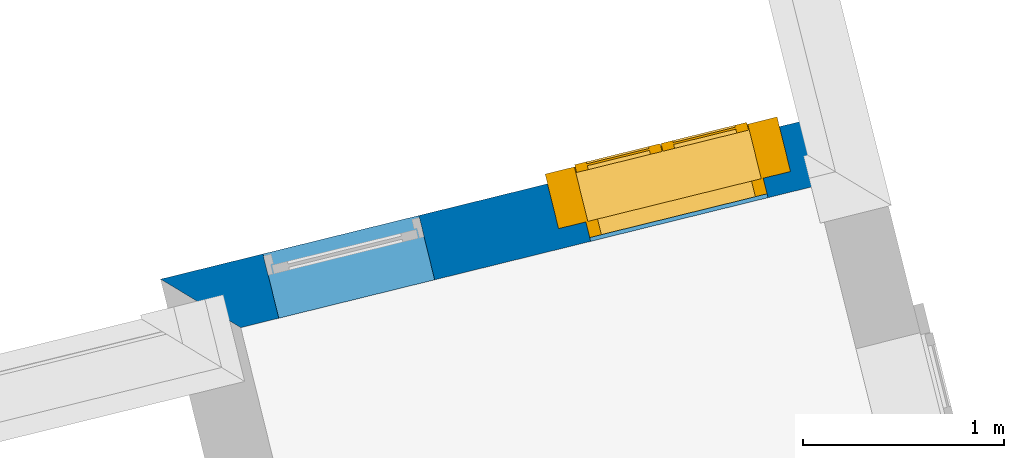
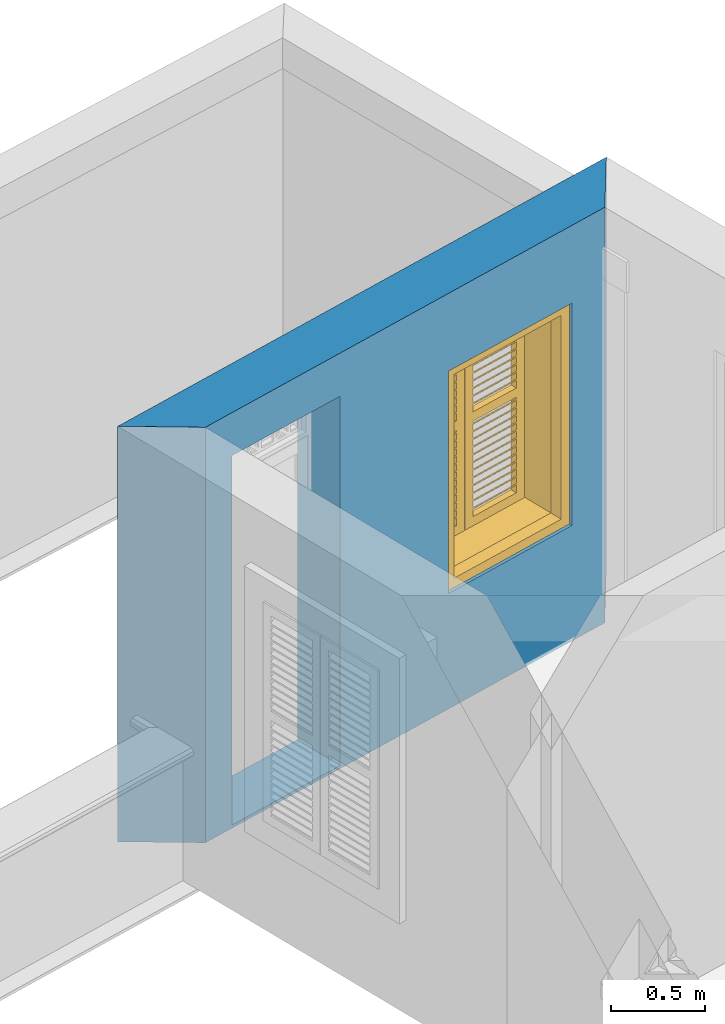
# One storey, part 7 of 8: 1 wall, 1 window, 2 openings.
"""IFC4 building model written with IfcOpenShell, lengths in metres."""

from ifc_helpers import new_model, si_unit, frame, origin, origin_with_axes, place, context, subcontext, project, spatial, polyline, outline, extrude, faceted_brep, source, transform, mapped, material, layer, layer_set, layer_usage, type_object, type_shapes, element, fill, save


model = new_model("IFC4")

# Units and contexts
model_context = context("Model", 3, world=origin_with_axes())
body_context = subcontext(model_context, "Body", "Model", "MODEL_VIEW")
ifc_project = project(units=[si_unit("PLANEANGLEUNIT", "RADIAN"), si_unit("MASSUNIT", "GRAM", prefix="KILO"), si_unit("FORCEUNIT", "NEWTON", prefix="KILO"), si_unit("LENGTHUNIT", "METRE"), si_unit("AREAUNIT", "SQUARE_METRE"), si_unit("VOLUMEUNIT", "CUBIC_METRE")], contexts=[model_context, model_context])

# Site, building, storey
site_placement = place(None, origin_with_axes())
site = spatial("IfcSite", under=ifc_project, at=site_placement, Name="Site plot-1", CompositionType="ELEMENT")
building_placement = place(None, origin_with_axes())
building = spatial("IfcBuilding", under=site, at=building_placement, Name="Building plot-1", CompositionType="ELEMENT")
storey_placement = place(None, frame((0.0, 0.0, 2.7), z_axis=(0.0, 0.0, 1.0), x_axis=(1.0, 0.0, 0.0)))
storey = spatial("IfcBuildingStorey", under=building, at=storey_placement, Name="plot-1 1", CompositionType="ELEMENT", Elevation=2.7)

# Wall, openings, window
ifc_material = material(Name="Masonry")
ifc_layer = layer(ifc_material, 0.33, ventilated=False)
ifc_layer_set = layer_set([ifc_layer], Name="exterior_0.08_0.25")
ifc_layer_usage = layer_usage(ifc_layer_set, "AXIS2", "POSITIVE", -0.25)
wall_type = type_object("IfcWallType", Name="exterior_0.08_0.25", PredefinedType="SOLIDWALL", material=ifc_layer_set)
wall_placement = place(storey_placement, frame((4.85901537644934, 24.6384675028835, 0.0), z_axis=(0.0, 0.0, 1.0), x_axis=(-0.970961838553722, -0.239234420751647, 0.0)))
wall = element("IfcWall", 1, at=wall_placement, inside=storey, type_object=wall_type, material=ifc_layer_usage, Name="exterior", context=body_context, shape_type="SweptSolid", body=[
    extrude(outline(polyline([(0.0796924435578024, 0.080000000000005), (-0.249038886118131, -0.249999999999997), (3.35690918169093, -0.249999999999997), (3.02690918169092, 0.0800000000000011), (0.0796924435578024, 0.080000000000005)])), origin_with_axes(), (0.0, 0.0, 1.0), 2.7),
])
opening_1_placement = place(wall_placement, frame((0.321727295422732, 0.0, 0.75)))
opening_1 = element("IfcOpeningElement", 2, at=opening_1_placement, cuts=wall, Name="My Opening", ObjectType="Opening", context=body_context, shape_type="SweptSolid", body=[
    extrude(outline(polyline([(0.0, -0.27), (0.909999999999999, -0.27), (0.909999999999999, 1.1), (-8.88178419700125e-16, 1.1), (0.0, -0.27)])), origin_with_axes(), (0.0, 0.0, 1.0), 1.445),
])
opening_2_placement = place(wall_placement, frame((2.03172729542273, 0.0, 0.02)))
element("IfcOpeningElement", 3, at=opening_2_placement, cuts=wall, Name="My Opening", ObjectType="Opening", context=body_context, shape_type="SweptSolid", body=[
    extrude(outline(polyline([(0.0, -0.269999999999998), (0.8, -0.270000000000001), (0.799999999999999, 1.1), (0.0, 1.1), (0.0, -0.269999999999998)])), origin_with_axes(), (0.0, 0.0, 1.0), 2.4),
])
window_type = type_object("IfcWindowType", Name="shuttered_shorter", PartitioningType="DOUBLE_PANEL_HORIZONTAL", PredefinedType="NOTDEFINED")
shared_shape = source(origin(), body_context, "Body", "Brep", [
    faceted_brep([(0.393, 0.0, 0.622), (0.074, 0.0, 0.622), (0.074, 0.0, 0.632), (0.393, 0.0, 0.632), (0.074, -0.04, 0.592), (0.393, -0.04, 0.592), (0.393, -0.04, 0.582), (0.074, -0.04, 0.582), (0.517, 0.0, 0.682), (0.836, 0.0, 0.682), (0.836, 0.0, 0.672), (0.517, 0.0, 0.672), (0.517, -0.04, 0.642), (0.836, -0.04, 0.642), (0.836, -0.04, 0.632), (0.517, -0.04, 0.632), (0.517, 0.0, 0.632), (0.836, 0.0, 0.632), (0.836, 0.0, 0.622), (0.517, 0.0, 0.622), (0.517, -0.04, 0.592), (0.836, -0.04, 0.592), (0.836, -0.04, 0.582), (0.517, -0.04, 0.582), (0.517, 0.0, 0.232), (0.836, 0.0, 0.232), (0.836, 0.0, 0.222), (0.517, 0.0, 0.222), (0.517, -0.04, 0.192), (0.836, -0.04, 0.192), (0.836, -0.04, 0.182), (0.517, -0.04, 0.182), (0.517, 0.0, 0.532), (0.836, 0.0, 0.532), (0.836, 0.0, 0.522), (0.517, 0.0, 0.522), (0.517, -0.04, 0.492), (0.836, -0.04, 0.492), (0.836, -0.04, 0.482), (0.517, -0.04, 0.482), (0.517, 0.0, 0.482), (0.836, 0.0, 0.482), (0.836, 0.0, 0.472), (0.517, 0.0, 0.472), (0.517, -0.04, 0.442), (0.836, -0.04, 0.442), (0.836, -0.04, 0.432), (0.517, -0.04, 0.432), (0.517, 0.0, 0.582), (0.836, 0.0, 0.582), (0.836, 0.0, 0.572), (0.517, 0.0, 0.572), (0.517, -0.04, 0.542), (0.836, -0.04, 0.542), (0.836, -0.04, 0.532), (0.517, -0.04, 0.532), (0.517, 0.0, 0.182), (0.836, 0.0, 0.182), (0.836, 0.0, 0.172), (0.517, 0.0, 0.172), (0.517, -0.04, 0.142), (0.836, -0.04, 0.142), (0.836, -0.04, 0.132), (0.517, -0.04, 0.132), (0.517, 0.0, 0.382), (0.836, 0.0, 0.382), (0.836, 0.0, 0.372), (0.517, 0.0, 0.372), (0.517, -0.04, 0.342), (0.836, -0.04, 0.342), (0.836, -0.04, 0.332), (0.517, -0.04, 0.332), (0.517, 0.0, 0.432), (0.836, 0.0, 0.432), (0.836, 0.0, 0.422), (0.517, 0.0, 0.422), (0.517, -0.04, 0.392), (0.836, -0.04, 0.392), (0.836, -0.04, 0.382), (0.517, -0.04, 0.382), (0.517, 0.0, 0.132), (0.836, 0.0, 0.132), (0.836, 0.0, 0.122), (0.517, 0.0, 0.122), (0.517, -0.04, 0.092), (0.836, -0.04, 0.092), (0.836, -0.04, 0.082), (0.517, -0.04, 0.082), (0.517, 0.0, 0.282), (0.836, 0.0, 0.282), (0.836, 0.0, 0.272), (0.517, 0.0, 0.272), (0.517, -0.04, 0.242), (0.836, -0.04, 0.242), (0.836, -0.04, 0.232), (0.517, -0.04, 0.232), (0.517, 0.0, 0.332), (0.836, 0.0, 0.332), (0.836, 0.0, 0.322), (0.517, 0.0, 0.322), (0.517, -0.04, 0.292), (0.836, -0.04, 0.292), (0.836, -0.04, 0.282), (0.517, -0.04, 0.282), (0.517, 0.0, 1.362667), (0.836, 0.0, 1.362667), (0.836, 0.0, 1.352667), (0.517, 0.0, 1.352667), (0.517, -0.04, 1.322667), (0.836, -0.04, 1.322667), (0.836, -0.04, 1.312667), (0.517, -0.04, 1.312667), (0.517, 0.0, 1.312667), (0.836, 0.0, 1.312667), (0.836, 0.0, 1.302667), (0.517, 0.0, 1.302667), (0.517, -0.04, 1.272667), (0.836, -0.04, 1.272667), (0.836, -0.04, 1.262667), (0.517, -0.04, 1.262667), (0.517, 0.0, 0.912667), (0.836, 0.0, 0.912667), (0.836, 0.0, 0.902667), (0.517, 0.0, 0.902667), (0.517, -0.04, 0.872667), (0.836, -0.04, 0.872667), (0.836, -0.04, 0.862667), (0.517, -0.04, 0.862667), (0.517, 0.0, 1.212667), (0.836, 0.0, 1.212667), (0.836, 0.0, 1.202667), (0.517, 0.0, 1.202667), (0.517, -0.04, 1.172667), (0.836, -0.04, 1.172667), (0.836, -0.04, 1.162667), (0.517, -0.04, 1.162667), (0.517, 0.0, 1.162667), (0.836, 0.0, 1.162667), (0.836, 0.0, 1.152667), (0.517, 0.0, 1.152667), (0.517, -0.04, 1.122667), (0.836, -0.04, 1.122667), (0.836, -0.04, 1.112667), (0.517, -0.04, 1.112667), (0.517, 0.0, 1.262667), (0.836, 0.0, 1.262667), (0.836, 0.0, 1.252667), (0.517, 0.0, 1.252667), (0.517, -0.04, 1.222667), (0.836, -0.04, 1.222667), (0.836, -0.04, 1.212667), (0.517, -0.04, 1.212667), (0.517, 0.0, 0.862667), (0.836, 0.0, 0.862667), (0.836, 0.0, 0.852667), (0.517, 0.0, 0.852667), (0.517, -0.04, 0.822667), (0.836, -0.04, 0.822667), (0.836, -0.04, 0.812667), (0.517, -0.04, 0.812667), (0.517, 0.0, 1.062667), (0.836, 0.0, 1.062667), (0.836, 0.0, 1.052667), (0.517, 0.0, 1.052667), (0.517, -0.04, 1.022667), (0.836, -0.04, 1.022667), (0.836, -0.04, 1.012667), (0.517, -0.04, 1.012667), (0.517, 0.0, 1.112667), (0.836, 0.0, 1.112667), (0.836, 0.0, 1.102667), (0.517, 0.0, 1.102667), (0.517, -0.04, 1.072667), (0.836, -0.04, 1.072667), (0.836, -0.04, 1.062667), (0.517, -0.04, 1.062667), (0.517, 0.0, 0.812667), (0.836, 0.0, 0.812667), (0.836, 0.0, 0.802667), (0.517, 0.0, 0.802667), (0.517, -0.04, 0.772667), (0.836, -0.04, 0.772667), (0.836, -0.04, 0.762667), (0.517, -0.04, 0.762667), (0.517, 0.0, 0.962667), (0.836, 0.0, 0.962667), (0.836, 0.0, 0.952667), (0.517, 0.0, 0.952667), (0.517, -0.04, 0.922667), (0.836, -0.04, 0.922667), (0.836, -0.04, 0.912667), (0.517, -0.04, 0.912667), (0.517, 0.0, 1.012667), (0.836, 0.0, 1.012667), (0.836, 0.0, 1.002667), (0.517, 0.0, 1.002667), (0.517, -0.04, 0.972667), (0.836, -0.04, 0.972667), (0.836, -0.04, 0.962667), (0.517, -0.04, 0.962667), (0.074, 0.0, 0.682), (0.393, 0.0, 0.682), (0.393, 0.0, 0.672), (0.074, 0.0, 0.672), (0.074, -0.04, 0.642), (0.393, -0.04, 0.642), (0.393, -0.04, 0.632), (0.074, -0.04, 0.632), (0.074, 0.0, 0.232), (0.393, 0.0, 0.232), (0.393, 0.0, 0.222), (0.074, 0.0, 0.222), (0.074, -0.04, 0.192), (0.393, -0.04, 0.192), (0.393, -0.04, 0.182), (0.074, -0.04, 0.182), (0.074, 0.0, 0.532), (0.393, 0.0, 0.532), (0.393, 0.0, 0.522), (0.074, 0.0, 0.522), (0.074, -0.04, 0.492), (0.393, -0.04, 0.492), (0.393, -0.04, 0.482), (0.074, -0.04, 0.482), (0.074, 0.0, 0.482), (0.393, 0.0, 0.482), (0.393, 0.0, 0.472), (0.074, 0.0, 0.472), (0.074, -0.04, 0.442), (0.393, -0.04, 0.442), (0.393, -0.04, 0.432), (0.074, -0.04, 0.432), (0.074, 0.0, 0.582), (0.393, 0.0, 0.582), (0.393, 0.0, 0.572), (0.074, 0.0, 0.572), (0.074, -0.04, 0.542), (0.393, -0.04, 0.542), (0.393, -0.04, 0.532), (0.074, -0.04, 0.532), (0.074, 0.0, 0.182), (0.393, 0.0, 0.182), (0.393, 0.0, 0.172), (0.074, 0.0, 0.172), (0.074, -0.04, 0.142), (0.393, -0.04, 0.142), (0.393, -0.04, 0.132), (0.074, -0.04, 0.132), (0.074, 0.0, 0.382), (0.393, 0.0, 0.382), (0.393, 0.0, 0.372), (0.074, 0.0, 0.372), (0.074, -0.04, 0.342), (0.393, -0.04, 0.342), (0.393, -0.04, 0.332), (0.074, -0.04, 0.332), (0.074, 0.0, 0.432), (0.393, 0.0, 0.432), (0.393, 0.0, 0.422), (0.074, 0.0, 0.422), (0.074, -0.04, 0.392), (0.393, -0.04, 0.392), (0.393, -0.04, 0.382), (0.074, -0.04, 0.382), (0.074, 0.0, 0.132), (0.393, 0.0, 0.132), (0.393, 0.0, 0.122), (0.074, 0.0, 0.122), (0.074, -0.04, 0.092), (0.393, -0.04, 0.092), (0.393, -0.04, 0.082), (0.074, -0.04, 0.082), (0.074, 0.0, 0.282), (0.393, 0.0, 0.282), (0.393, 0.0, 0.272), (0.074, 0.0, 0.272), (0.074, -0.04, 0.242), (0.393, -0.04, 0.242), (0.393, -0.04, 0.232), (0.074, -0.04, 0.232), (0.074, 0.0, 0.332), (0.393, 0.0, 0.332), (0.393, 0.0, 0.322), (0.074, 0.0, 0.322), (0.074, -0.04, 0.292), (0.393, -0.04, 0.292), (0.393, -0.04, 0.282), (0.074, -0.04, 0.282), (0.074, 0.0, 1.362667), (0.393, 0.0, 1.362667), (0.393, 0.0, 1.352667), (0.074, 0.0, 1.352667), (0.074, -0.04, 1.322667), (0.393, -0.04, 1.322667), (0.393, -0.04, 1.312667), (0.074, -0.04, 1.312667), (0.074, 0.0, 1.312667), (0.393, 0.0, 1.312667), (0.393, 0.0, 1.302667), (0.074, 0.0, 1.302667), (0.074, -0.04, 1.272667), (0.393, -0.04, 1.272667), (0.393, -0.04, 1.262667), (0.074, -0.04, 1.262667), (0.074, 0.0, 0.912667), (0.393, 0.0, 0.912667), (0.393, 0.0, 0.902667), (0.074, 0.0, 0.902667), (0.074, -0.04, 0.872667), (0.393, -0.04, 0.872667), (0.393, -0.04, 0.862667), (0.074, -0.04, 0.862667), (0.074, 0.0, 1.212667), (0.393, 0.0, 1.212667), (0.393, 0.0, 1.202667), (0.074, 0.0, 1.202667), (0.074, -0.04, 1.172667), (0.393, -0.04, 1.172667), (0.393, -0.04, 1.162667), (0.074, -0.04, 1.162667), (0.074, 0.0, 1.162667), (0.393, 0.0, 1.162667), (0.393, 0.0, 1.152667), (0.074, 0.0, 1.152667), (0.074, -0.04, 1.122667), (0.393, -0.04, 1.122667), (0.393, -0.04, 1.112667), (0.074, -0.04, 1.112667), (0.074, 0.0, 1.262667), (0.393, 0.0, 1.262667), (0.393, 0.0, 1.252667), (0.074, 0.0, 1.252667), (0.074, -0.04, 1.222667), (0.393, -0.04, 1.222667), (0.393, -0.04, 1.212667), (0.074, -0.04, 1.212667), (0.074, 0.0, 0.862667), (0.393, 0.0, 0.862667), (0.393, 0.0, 0.852667), (0.074, 0.0, 0.852667), (0.074, -0.04, 0.822667), (0.393, -0.04, 0.822667), (0.393, -0.04, 0.812667), (0.074, -0.04, 0.812667), (0.074, 0.0, 1.062667), (0.393, 0.0, 1.062667), (0.393, 0.0, 1.052667), (0.074, 0.0, 1.052667), (0.074, -0.04, 1.022667), (0.393, -0.04, 1.022667), (0.393, -0.04, 1.012667), (0.074, -0.04, 1.012667), (0.074, 0.0, 1.112667), (0.393, 0.0, 1.112667), (0.393, 0.0, 1.102667), (0.074, 0.0, 1.102667), (0.074, -0.04, 1.072667), (0.393, -0.04, 1.072667), (0.393, -0.04, 1.062667), (0.074, -0.04, 1.062667), (0.074, 0.0, 0.812667), (0.393, 0.0, 0.812667), (0.393, 0.0, 0.802667), (0.074, 0.0, 0.802667), (0.074, -0.04, 0.772667), (0.393, -0.04, 0.772667), (0.393, -0.04, 0.762667), (0.074, -0.04, 0.762667), (0.074, 0.0, 0.962667), (0.393, 0.0, 0.962667), (0.393, 0.0, 0.952667), (0.074, 0.0, 0.952667), (0.074, -0.04, 0.922667), (0.393, -0.04, 0.922667), (0.393, -0.04, 0.912667), (0.074, -0.04, 0.912667), (0.074, 0.0, 1.012667), (0.393, 0.0, 1.012667), (0.393, 0.0, 1.002667), (0.074, 0.0, 1.002667), (0.074, -0.04, 0.972667), (0.393, -0.04, 0.972667), (0.393, -0.04, 0.962667), (0.074, -0.04, 0.962667), (0.517, -0.04, 0.072), (0.457, -0.04, 0.012), (0.896, -0.04, 0.012), (0.836, -0.04, 0.072), (0.457, -0.04, 0.692667), (0.517, -0.04, 0.692667), (0.457, 0.0, 0.012), (0.896, 0.0, 0.012), (0.836, -0.04, 0.692667), (0.896, -0.04, 0.692667), (0.836, 0.0, 0.072), (0.517, 0.0, 0.072), (0.457, 0.0, 0.692667), (0.517, 0.0, 0.692667), (0.517, -0.04, 0.752666), (0.457, -0.04, 0.752666), (0.896, 0.0, 0.692667), (0.836, 0.0, 0.692667), (0.836, -0.04, 0.752666), (0.896, -0.04, 0.752666), (0.457, 0.0, 0.752666), (0.457, -0.04, 1.433333), (0.517, -0.04, 1.373333), (0.896, 0.0, 0.752666), (0.836, -0.04, 1.373333), (0.896, -0.04, 1.433333), (0.457, 0.0, 1.433333), (0.517, 0.0, 0.752666), (0.836, 0.0, 0.752666), (0.517, 0.0, 1.373333), (0.896, 0.0, 1.433333), (0.836, 0.0, 1.373333), (0.074, -0.04, 0.072), (0.014, -0.04, 0.012), (0.453, -0.04, 0.012), (0.393, -0.04, 0.072), (0.014, -0.04, 0.692667), (0.074, -0.04, 0.692667), (0.014, 0.0, 0.012), (0.453, 0.0, 0.012), (0.393, -0.04, 0.692667), (0.453, -0.04, 0.692667), (0.393, 0.0, 0.072), (0.074, 0.0, 0.072), (0.014, 0.0, 0.692667), (0.074, 0.0, 0.692667), (0.074, -0.04, 0.752666), (0.014, -0.04, 0.752666), (0.453, 0.0, 0.692667), (0.393, 0.0, 0.692667), (0.393, -0.04, 0.752666), (0.453, -0.04, 0.752666), (0.014, 0.0, 0.752666), (0.014, -0.04, 1.433333), (0.074, -0.04, 1.373333), (0.453, 0.0, 0.752666), (0.393, -0.04, 1.373333), (0.453, -0.04, 1.433333), (0.014, 0.0, 1.433333), (0.074, 0.0, 0.752666), (0.393, 0.0, 0.752666), (0.074, 0.0, 1.373333), (0.453, 0.0, 1.433333), (0.393, 0.0, 1.373333), (0.0, 0.33, 1.445), (0.91, 0.33, 1.445), (0.85, 0.33, 1.385), (0.06, 0.33, 1.385), (0.91, 0.25, 1.445), (0.0, 0.25, 1.445), (0.91, 0.25, 1.445), (0.85, 0.33, 0.06), (0.91, 0.33, 0.0), (0.85, 0.25, 1.385), (0.06, 0.25, 1.385), (0.0, 0.33, 0.0), (0.06, 0.33, 0.06), (0.0, 0.25, 0.0), (0.91, 0.25, 0.0), (0.85, 0.25, 0.06), (0.06, 0.25, 0.06), (1.05, 0.25, 1.585), (-0.14, 0.25, 1.585), (-0.14, -0.03, 1.585), (1.05, -0.03, 1.585), (0.9, -0.03, 1.435), (0.01, -0.03, 1.435), (0.01, 0.25, 1.435), (0.9, 0.25, 1.435), (0.9, 0.25, 0.01), (0.9, -0.03, 0.01), (1.05, -0.03, -0.14), (1.05, 0.25, -0.14), (0.01, -0.03, 0.01), (0.01, 0.25, 0.01), (-0.14, -0.03, -0.14), (-0.14, 0.25, -0.14)], [[[0, 1, 2, 3]], [[4, 5, 3, 2]], [[5, 6, 0, 3]], [[1, 0, 6, 7]], [[2, 1, 7, 4]], [[5, 4, 7, 6]], [[8, 9, 10, 11]], [[12, 13, 9, 8]], [[13, 14, 10, 9]], [[14, 15, 11, 10]], [[15, 12, 8, 11]], [[13, 12, 15, 14]], [[16, 17, 18, 19]], [[20, 21, 17, 16]], [[21, 22, 18, 17]], [[22, 23, 19, 18]], [[23, 20, 16, 19]], [[21, 20, 23, 22]], [[24, 25, 26, 27]], [[28, 29, 25, 24]], [[29, 30, 26, 25]], [[30, 31, 27, 26]], [[31, 28, 24, 27]], [[29, 28, 31, 30]], [[32, 33, 34, 35]], [[36, 37, 33, 32]], [[37, 38, 34, 33]], [[38, 39, 35, 34]], [[39, 36, 32, 35]], [[37, 36, 39, 38]], [[40, 41, 42, 43]], [[44, 45, 41, 40]], [[45, 46, 42, 41]], [[46, 47, 43, 42]], [[47, 44, 40, 43]], [[45, 44, 47, 46]], [[48, 49, 50, 51]], [[52, 53, 49, 48]], [[53, 54, 50, 49]], [[54, 55, 51, 50]], [[55, 52, 48, 51]], [[53, 52, 55, 54]], [[56, 57, 58, 59]], [[60, 61, 57, 56]], [[61, 62, 58, 57]], [[62, 63, 59, 58]], [[63, 60, 56, 59]], [[61, 60, 63, 62]], [[64, 65, 66, 67]], [[68, 69, 65, 64]], [[69, 70, 66, 65]], [[70, 71, 67, 66]], [[71, 68, 64, 67]], [[69, 68, 71, 70]], [[72, 73, 74, 75]], [[76, 77, 73, 72]], [[77, 78, 74, 73]], [[78, 79, 75, 74]], [[79, 76, 72, 75]], [[77, 76, 79, 78]], [[80, 81, 82, 83]], [[84, 85, 81, 80]], [[85, 86, 82, 81]], [[86, 87, 83, 82]], [[87, 84, 80, 83]], [[85, 84, 87, 86]], [[88, 89, 90, 91]], [[92, 93, 89, 88]], [[93, 94, 90, 89]], [[94, 95, 91, 90]], [[95, 92, 88, 91]], [[93, 92, 95, 94]], [[96, 97, 98, 99]], [[100, 101, 97, 96]], [[101, 102, 98, 97]], [[102, 103, 99, 98]], [[103, 100, 96, 99]], [[101, 100, 103, 102]], [[104, 105, 106, 107]], [[108, 109, 105, 104]], [[109, 110, 106, 105]], [[110, 111, 107, 106]], [[111, 108, 104, 107]], [[109, 108, 111, 110]], [[112, 113, 114, 115]], [[116, 117, 113, 112]], [[117, 118, 114, 113]], [[118, 119, 115, 114]], [[119, 116, 112, 115]], [[117, 116, 119, 118]], [[120, 121, 122, 123]], [[124, 125, 121, 120]], [[125, 126, 122, 121]], [[126, 127, 123, 122]], [[127, 124, 120, 123]], [[125, 124, 127, 126]], [[128, 129, 130, 131]], [[132, 133, 129, 128]], [[133, 134, 130, 129]], [[134, 135, 131, 130]], [[135, 132, 128, 131]], [[133, 132, 135, 134]], [[136, 137, 138, 139]], [[140, 141, 137, 136]], [[141, 142, 138, 137]], [[142, 143, 139, 138]], [[139, 143, 140, 136]], [[141, 140, 143, 142]], [[144, 145, 146, 147]], [[148, 149, 145, 144]], [[149, 150, 146, 145]], [[150, 151, 147, 146]], [[151, 148, 144, 147]], [[149, 148, 151, 150]], [[152, 153, 154, 155]], [[156, 157, 153, 152]], [[157, 158, 154, 153]], [[158, 159, 155, 154]], [[159, 156, 152, 155]], [[157, 156, 159, 158]], [[160, 161, 162, 163]], [[164, 165, 161, 160]], [[165, 166, 162, 161]], [[166, 167, 163, 162]], [[167, 164, 160, 163]], [[165, 164, 167, 166]], [[168, 169, 170, 171]], [[172, 173, 169, 168]], [[173, 174, 170, 169]], [[174, 175, 171, 170]], [[175, 172, 168, 171]], [[173, 172, 175, 174]], [[176, 177, 178, 179]], [[180, 181, 177, 176]], [[181, 182, 178, 177]], [[182, 183, 179, 178]], [[183, 180, 176, 179]], [[181, 180, 183, 182]], [[184, 185, 186, 187]], [[188, 189, 185, 184]], [[189, 190, 186, 185]], [[190, 191, 187, 186]], [[191, 188, 184, 187]], [[189, 188, 191, 190]], [[192, 193, 194, 195]], [[196, 197, 193, 192]], [[197, 198, 194, 193]], [[198, 199, 195, 194]], [[199, 196, 192, 195]], [[197, 196, 199, 198]], [[200, 201, 202, 203]], [[204, 205, 201, 200]], [[205, 206, 202, 201]], [[206, 207, 203, 202]], [[207, 204, 200, 203]], [[205, 204, 207, 206]], [[208, 209, 210, 211]], [[212, 213, 209, 208]], [[213, 214, 210, 209]], [[214, 215, 211, 210]], [[215, 212, 208, 211]], [[213, 212, 215, 214]], [[216, 217, 218, 219]], [[220, 221, 217, 216]], [[221, 222, 218, 217]], [[222, 223, 219, 218]], [[223, 220, 216, 219]], [[221, 220, 223, 222]], [[224, 225, 226, 227]], [[228, 229, 225, 224]], [[229, 230, 226, 225]], [[230, 231, 227, 226]], [[231, 228, 224, 227]], [[229, 228, 231, 230]], [[232, 233, 234, 235]], [[236, 237, 233, 232]], [[237, 238, 234, 233]], [[238, 239, 235, 234]], [[239, 236, 232, 235]], [[237, 236, 239, 238]], [[240, 241, 242, 243]], [[244, 245, 241, 240]], [[245, 246, 242, 241]], [[246, 247, 243, 242]], [[247, 244, 240, 243]], [[245, 244, 247, 246]], [[248, 249, 250, 251]], [[252, 253, 249, 248]], [[253, 254, 250, 249]], [[254, 255, 251, 250]], [[255, 252, 248, 251]], [[253, 252, 255, 254]], [[256, 257, 258, 259]], [[260, 261, 257, 256]], [[261, 262, 258, 257]], [[262, 263, 259, 258]], [[263, 260, 256, 259]], [[261, 260, 263, 262]], [[264, 265, 266, 267]], [[268, 269, 265, 264]], [[269, 270, 266, 265]], [[270, 271, 267, 266]], [[271, 268, 264, 267]], [[269, 268, 271, 270]], [[272, 273, 274, 275]], [[276, 277, 273, 272]], [[277, 278, 274, 273]], [[278, 279, 275, 274]], [[279, 276, 272, 275]], [[277, 276, 279, 278]], [[280, 281, 282, 283]], [[284, 285, 281, 280]], [[285, 286, 282, 281]], [[286, 287, 283, 282]], [[287, 284, 280, 283]], [[285, 284, 287, 286]], [[288, 289, 290, 291]], [[292, 293, 289, 288]], [[293, 294, 290, 289]], [[294, 295, 291, 290]], [[295, 292, 288, 291]], [[293, 292, 295, 294]], [[296, 297, 298, 299]], [[300, 301, 297, 296]], [[301, 302, 298, 297]], [[302, 303, 299, 298]], [[303, 300, 296, 299]], [[301, 300, 303, 302]], [[304, 305, 306, 307]], [[308, 309, 305, 304]], [[309, 310, 306, 305]], [[310, 311, 307, 306]], [[311, 308, 304, 307]], [[309, 308, 311, 310]], [[312, 313, 314, 315]], [[316, 317, 313, 312]], [[317, 318, 314, 313]], [[318, 319, 315, 314]], [[319, 316, 312, 315]], [[317, 316, 319, 318]], [[320, 321, 322, 323]], [[324, 325, 321, 320]], [[325, 326, 322, 321]], [[326, 327, 323, 322]], [[327, 324, 320, 323]], [[325, 324, 327, 326]], [[328, 329, 330, 331]], [[332, 333, 329, 328]], [[333, 334, 330, 329]], [[334, 335, 331, 330]], [[335, 332, 328, 331]], [[333, 332, 335, 334]], [[336, 337, 338, 339]], [[340, 341, 337, 336]], [[341, 342, 338, 337]], [[342, 343, 339, 338]], [[343, 340, 336, 339]], [[341, 340, 343, 342]], [[344, 345, 346, 347]], [[348, 349, 345, 344]], [[349, 350, 346, 345]], [[350, 351, 347, 346]], [[351, 348, 344, 347]], [[349, 348, 351, 350]], [[352, 353, 354, 355]], [[356, 357, 353, 352]], [[357, 358, 354, 353]], [[358, 359, 355, 354]], [[359, 356, 352, 355]], [[357, 356, 359, 358]], [[360, 361, 362, 363]], [[364, 365, 361, 360]], [[365, 366, 362, 361]], [[366, 367, 363, 362]], [[367, 364, 360, 363]], [[365, 364, 367, 366]], [[368, 369, 370, 371]], [[372, 373, 369, 368]], [[373, 374, 370, 369]], [[374, 375, 371, 370]], [[375, 372, 368, 371]], [[373, 372, 375, 374]], [[376, 377, 378, 379]], [[380, 381, 377, 376]], [[381, 382, 378, 377]], [[382, 383, 379, 378]], [[383, 380, 376, 379]], [[381, 380, 383, 382]], [[384, 385, 386, 387]], [[388, 385, 384, 389]], [[390, 391, 386, 385]], [[392, 387, 386, 393]], [[384, 387, 394, 395]], [[390, 385, 388, 396]], [[389, 384, 395, 397]], [[389, 398, 399, 388]], [[390, 395, 394, 391]], [[400, 393, 386, 391]], [[387, 392, 401, 394]], [[402, 392, 393, 403]], [[396, 388, 399, 404]], [[390, 396, 397, 395]], [[392, 389, 397, 401]], [[398, 389, 392, 402]], [[405, 399, 398, 406]], [[394, 401, 400, 391]], [[407, 403, 393, 400]], [[408, 402, 403, 409]], [[404, 399, 405, 410]], [[411, 397, 396, 404]], [[397, 411, 412, 401]], [[398, 402, 412, 411]], [[406, 398, 411, 413]], [[405, 406, 408, 409]], [[401, 412, 407, 400]], [[414, 409, 403, 407]], [[402, 408, 415, 412]], [[405, 409, 414, 410]], [[404, 410, 413, 411]], [[408, 406, 413, 415]], [[412, 415, 414, 407]], [[413, 410, 414, 415]], [[416, 417, 418, 419]], [[420, 417, 416, 421]], [[422, 423, 418, 417]], [[424, 419, 418, 425]], [[416, 419, 426, 427]], [[422, 417, 420, 428]], [[421, 416, 427, 429]], [[421, 430, 431, 420]], [[422, 427, 426, 423]], [[432, 425, 418, 423]], [[419, 424, 433, 426]], [[434, 424, 425, 435]], [[428, 420, 431, 436]], [[422, 428, 429, 427]], [[424, 421, 429, 433]], [[430, 421, 424, 434]], [[437, 431, 430, 438]], [[426, 433, 432, 423]], [[439, 435, 425, 432]], [[440, 434, 435, 441]], [[436, 431, 437, 442]], [[443, 429, 428, 436]], [[429, 443, 444, 433]], [[430, 434, 444, 443]], [[438, 430, 443, 445]], [[437, 438, 440, 441]], [[433, 444, 439, 432]], [[446, 441, 435, 439]], [[434, 440, 447, 444]], [[437, 441, 446, 442]], [[436, 442, 445, 443]], [[440, 438, 445, 447]], [[444, 447, 446, 439]], [[445, 442, 446, 447]], [[448, 449, 450, 451]], [[452, 449, 448]], [[448, 453, 454]], [[448, 454, 452]], [[455, 450, 449, 456]], [[451, 450, 457, 458]], [[459, 448, 451, 460]], [[448, 459, 461, 453]], [[454, 453, 458, 457]], [[462, 452, 454]], [[454, 457, 463]], [[454, 463, 462]], [[456, 449, 452, 462]], [[450, 455, 463, 457]], [[456, 459, 460, 455]], [[460, 451, 458, 464]], [[459, 456, 462, 461]], [[464, 458, 453, 461]], [[461, 462, 463, 464]], [[455, 460, 464, 463]], [[465, 466, 467, 468]], [[469, 470, 471, 472]], [[473, 474, 469, 472]], [[465, 468, 475, 476]], [[470, 477, 478, 471]], [[474, 473, 478, 477]], [[474, 477, 479, 475]], [[470, 467, 479, 477]], [[470, 469, 468, 467]], [[474, 475, 468, 469]], [[471, 478, 480, 466]], [[473, 472, 465, 476]], [[473, 476, 480, 478]], [[466, 465, 472, 471]], [[480, 476, 475, 479]], [[480, 479, 467, 466]]]),
])
type_shapes(window_type, [shared_shape])
window_placement = place(storey_placement, frame((4.48203715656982, 24.8236589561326, 0.75), z_axis=(0.0, 0.0, 1.0), x_axis=(-0.883575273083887, -0.217703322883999, 0.0)))
window = element("IfcWindow", 4, at=window_placement, inside=storey, type_object=window_type, Name="bedroom sahn window", OverallHeight=1.445, OverallWidth=0.91, context=body_context, shape_type="MappedRepresentation", body=[
    mapped(shared_shape, transform((0.0, 0.0, 0.0), scale=1.0)),
])
fill(opening_1, window)

save(model, "model.ifc")
